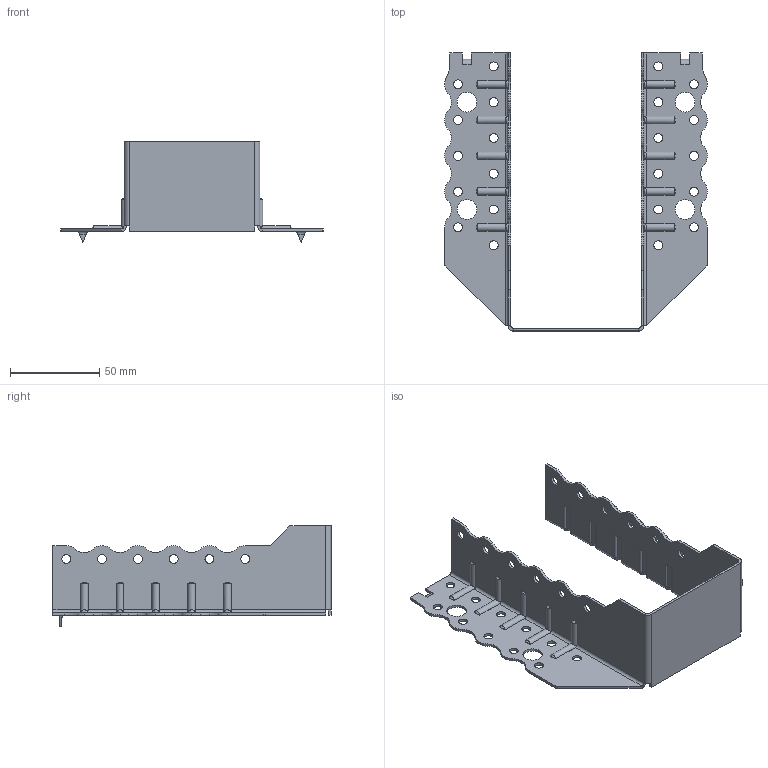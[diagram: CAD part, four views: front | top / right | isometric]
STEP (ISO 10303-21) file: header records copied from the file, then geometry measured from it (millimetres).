
FILE_DESCRIPTION (( 'STEP AP203' ), '1' );
FILE_NAME ('30618TOPK.STEP', '2021-04-08T14:41:11', ( '' ), ( '' ), 'SwSTEP 2.0', 'SolidWorks 2013', '' );
FILE_SCHEMA (( 'CONFIG_CONTROL_DESIGN' ));
Length unit declared in the file: millimetre
Products named in the file (1): 30618TOPK
Bounding box: 147 x 155.5 x 56 mm (x, y, z)
Volume: 35895.4 mm3; surface area: 51219.3 mm2
Topology: 1 solids, 1 shells, 426 faces, 1148 edges, 724 vertices
Faces by surface type: cylinder 267, plane 119, torus 20, bspline 20
Entity records: 15806 total; most frequent: CARTESIAN_POINT 4995, ORIENTED_EDGE 2296, DIRECTION 2214, EDGE_CURVE 1148, AXIS2_PLACEMENT_3D 807, VERTEX_POINT 724, LINE 600, VECTOR 600
